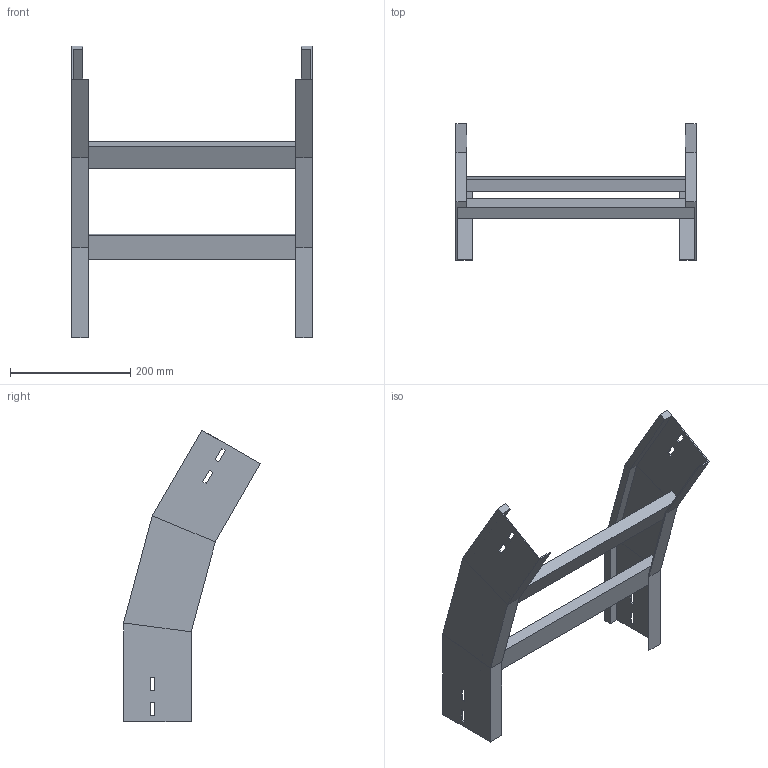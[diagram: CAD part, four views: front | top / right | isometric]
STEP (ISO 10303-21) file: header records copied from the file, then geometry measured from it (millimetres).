
FILE_DESCRIPTION (( 'STEP AP214' ), '1' );
FILE_NAME ('A2_35B3J400.step', '2025-02-21T14:47:57', ( '' ), ( '' ), 'SwSTEP 2.0', 'SolidWorks 2023', '' );
FILE_SCHEMA (( 'AUTOMOTIVE_DESIGN' ));
Length unit declared in the file: millimetre
Products named in the file (3): LONGH.DISCESA_30°_H112.5_R300; A2_35B3J400; TRAVERSINO_400
Assembly tree (5 placements, depth 2):
  A2_35B3J400
    LONGH.DISCESA_30°_H112.5_R300  x2
    TRAVERSINO_400  x3
Bounding box: 400 x 227.62 x 485.87 mm (x, y, z)
Volume: 1419704.7 mm3; surface area: 449158.8 mm2
Topology: 5 solids, 5 shells, 102 faces, 244 edges, 152 vertices
Faces by surface type: plane 102
Entity records: 1480 total; most frequent: CARTESIAN_POINT 244, ORIENTED_EDGE 232, DIRECTION 228, LINE 116, EDGE_CURVE 116, VECTOR 116, VERTEX_POINT 72, AXIS2_PLACEMENT_3D 56
